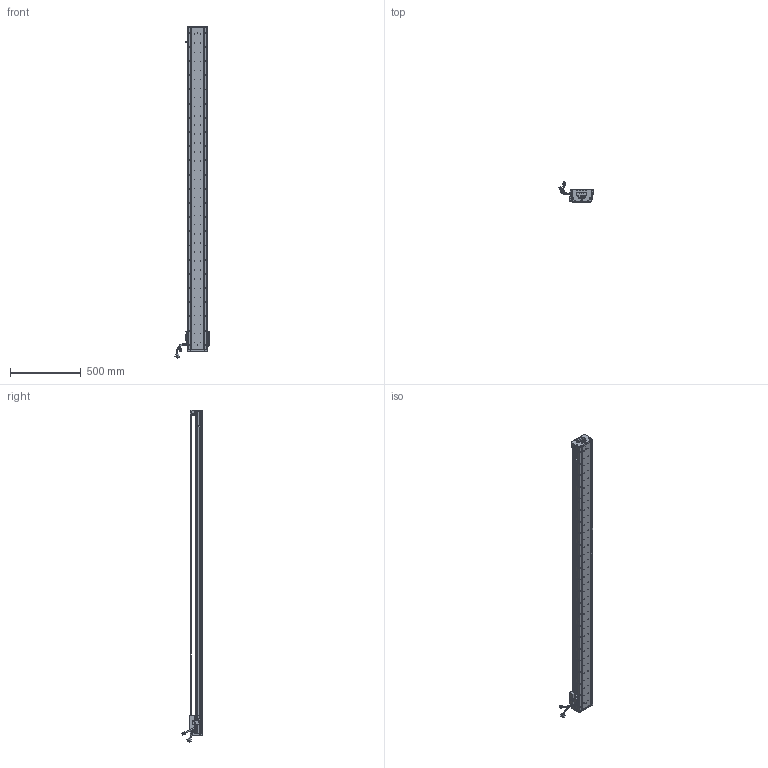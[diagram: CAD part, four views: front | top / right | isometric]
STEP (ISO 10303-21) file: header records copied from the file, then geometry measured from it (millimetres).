
FILE_DESCRIPTION (( 'STEP AP203' ), '1' );
FILE_NAME ('Z1-RY140D-1-L500-B-K.SLDASM_2100.step', '2021-05-17T07:34:04', ( '盈信电脑' ), ( '东莞市道滘镇水果街19号' ), 'SwSTEP 2.0', 'SolidWorks 2016', '' );
FILE_SCHEMA (( 'CONFIG_CONTROL_DESIGN' ));
Length unit declared in the file: millimetre
Products named in the file (36): LABEL; HARNESS-Part-2; 覜茼ん672; SCREW-M1.6-1; SCREW-M1.6-2; Z-RY140詩湍狟揤裔; Z1-RY140D-1-L500-B-K.SLDASM_2100; SCREW-M1.7; COVER; HARNESS; SCALE-Part-2; 140-Z-臏賑輸盄裔(21遴); LABEL-Part-1; 140蚥薯蝶輸; COVER-Part-1; SCALE-Part-1; SCREW-M1.6; SCREW-M1.7-1; SCREW-M1.6-3; SCALE; HOLDER0; 榋妏寠巭燃_暯_M2_2; Z1-RY140圉猾敕臏賑輸(21遴); SEAL; SHIELDPLATE; Z1-RY140-L500直线电机模组底座_2100; HARNESS-Part-1; 080黍杅芛假蚾釱21遴; Z-RY140感应器672光电感应片; 140雄赽晤鎢ん堤盄; Z1-RY140-L500詩湍100mm遵_2100; SEAL-Part-1; PBU_SHEET; PSLH080_PSLF2; Z-RY140詩湍奻揤裔; Z-140詩湍傷裔啣
Assembly tree (41 placements, depth 4):
  Z1-RY140D-1-L500-B-K.SLDASM_2100
    Z1-RY140-L500直线电机模组底座_2100
    Z-RY140感应器672光电感应片
    Z1-RY140圉猾敕臏賑輸(21遴)
    覜茼ん672  x3
    Z1-RY140-L500詩湍100mm遵_2100
    PSLH080_PSLF2
      SCALE
        SCALE-Part-1
        SCALE-Part-2
      HARNESS
        HARNESS-Part-1
        HARNESS-Part-2
      LABEL
        LABEL-Part-1
      COVER
        COVER-Part-1
      SEAL
        SEAL-Part-1
      榋妏寠巭燃_暯_M2_2
      SHIELDPLATE
      SCREW-M1.7
      SCREW-M1.7-1
      PBU_SHEET
      SCREW-M1.6
      SCREW-M1.6-1
      SCREW-M1.6-2
      SCREW-M1.6-3
      HOLDER0
    080黍杅芛假蚾釱21遴
    140-Z-臏賑輸盄裔(21遴)
    Z-140詩湍傷裔啣  x2
    Z-RY140詩湍狟揤裔  x2
    Z-RY140詩湍奻揤裔  x2
    140蚥薯蝶輸  x2
    140雄赽晤鎢ん堤盄
Bounding box: 239.84 x 143.88 x 2340.87 mm (x, y, z)
Volume: 7226393.7 mm3; surface area: 1919608.5 mm2
Topology: 36 solids, 36 shells, 3804 faces, 10326 edges, 6551 vertices
Faces by surface type: cylinder 2016, plane 1316, cone 350, torus 69, bspline 53
Entity records: 119642 total; most frequent: CARTESIAN_POINT 33685, ORIENTED_EDGE 17644, DIRECTION 16346, EDGE_CURVE 8822, AXIS2_PLACEMENT_3D 6044, VERTEX_POINT 5719, LINE 4258, VECTOR 4258
